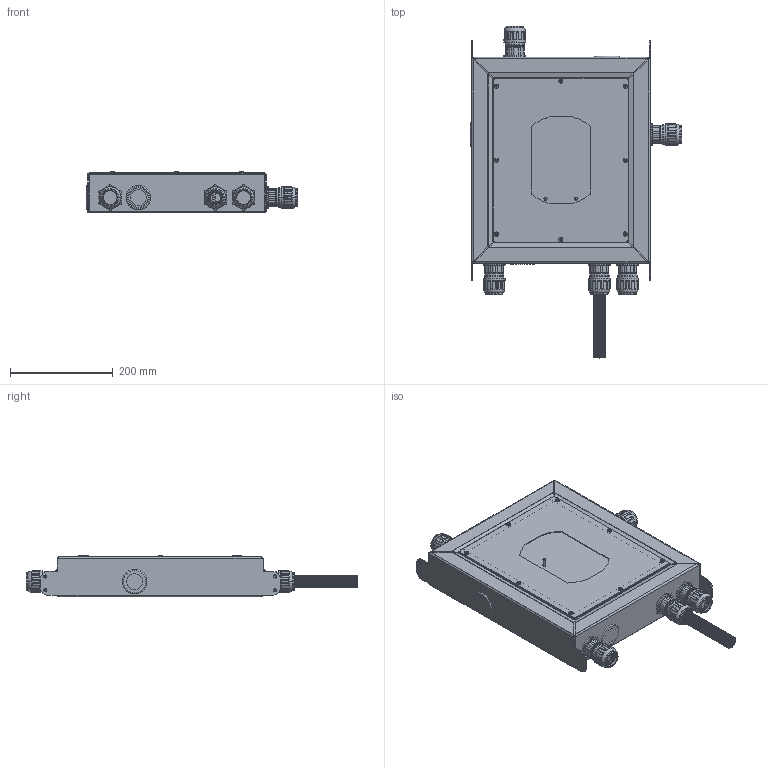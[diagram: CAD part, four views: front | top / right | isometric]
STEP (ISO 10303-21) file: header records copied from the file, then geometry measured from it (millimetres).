
FILE_DESCRIPTION((''),'2;1');
FILE_NAME('2029700_ASM','2022-10-11T16:29:26',('sosm1'),(''),'CREO PARAMETRIC BY PTC INC, 2018190','CREO PARAMETRIC BY PTC INC, 2018190','');
FILE_SCHEMA(('CONFIG_CONTROL_DESIGN','SHAPE_APPEARANCE_LAYERS_GROUPS'));
Products named in the file (17): 44171--; 44170--; 4421400_ASM; 44169--; 4422700_320; 4422700_239; 4421600_ASM; 4420200_5; 4420200_3; 4420200_4; 4420200_1; 4420200_2; 4420200_ASM; 4416800; PEX-20MM-SLANGE; 4420800; 2029700_ASM
Assembly tree (34 placements, depth 3):
  2029700_ASM
    4421400_ASM
      44171--
      44170--  x4
    4421600_ASM
      44169--
      4422700_320  x2
      4422700_239  x2
    4420200_ASM  x5
      4420200_5
      4420200_3
      4420200_4
      4420200_1
      4420200_2
    4416800  x3
    PEX-20MM-SLANGE
    4420800  x8
Bounding box: 411.4 x 647.2 x 81.88 mm (x, y, z)
Volume: 827382.1 mm3; surface area: 1020257.2 mm2
Topology: 47 solids, 47 shells, 4785 faces, 11636 edges, 7080 vertices
Faces by surface type: cylinder 1286, torus 1066, plane 987, bspline 756, cone 490, sphere 136, extrusion 64
Entity records: 63525 total; most frequent: CARTESIAN_POINT 18000, DIRECTION 7874, ORIENTED_EDGE 7436, EDGE_CURVE 3718, AXIS2_PLACEMENT_3D 3427, PRESENTATION_STYLE_ASSIGNMENT 2979, STYLED_ITEM 2979, CURVE_STYLE 2970
